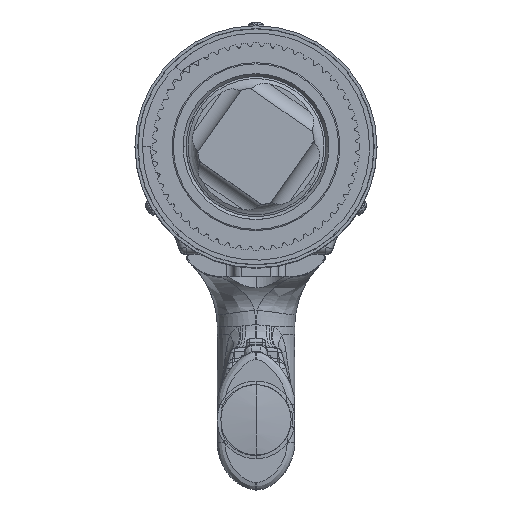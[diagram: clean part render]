
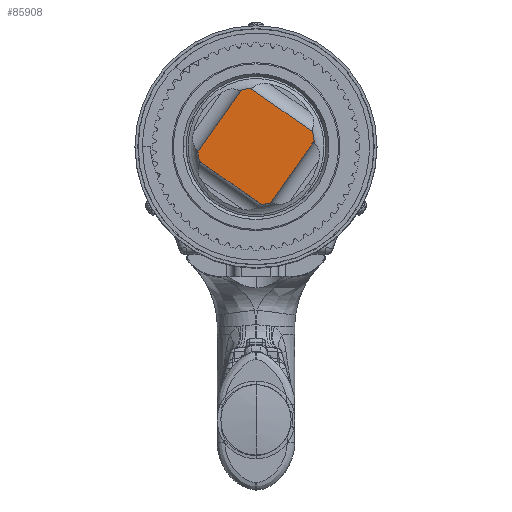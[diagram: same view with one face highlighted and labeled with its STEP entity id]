
A CAD part, top view. The second image highlights one B-rep face of the part: STEP entity #85908.
In plain terms, the highlighted planar face has unit normal (0, 0, 1).
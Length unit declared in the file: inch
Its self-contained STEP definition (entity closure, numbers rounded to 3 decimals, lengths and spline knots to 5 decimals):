
#2419 = AXIS2_PLACEMENT_3D ( 'NONE', #75793, #6244, #87295 ) ;
#5751 = PLANE ( 'NONE',  #2419 ) ;
#6244 = DIRECTION ( 'NONE',  ( 0., 0., -1. ) ) ;
#6402 = VERTEX_POINT ( 'NONE', #131752 ) ;
#8775 = DIRECTION ( 'NONE',  ( 0.82, -0.573, 0. ) ) ;
#9892 = LINE ( 'NONE', #78268, #71553 ) ;
#10936 = VERTEX_POINT ( 'NONE', #112325 ) ;
#13846 = ORIENTED_EDGE ( 'NONE', *, *, #33655, .T. ) ;
#16959 = VERTEX_POINT ( 'NONE', #147946 ) ;
#17022 = VERTEX_POINT ( 'NONE', #125379 ) ;
#19151 = AXIS2_PLACEMENT_3D ( 'NONE', #47066, #127144, #58733 ) ;
#29629 = EDGE_CURVE ( 'NONE', #10936, #6402, #84567, .T. ) ;
#33299 = LINE ( 'NONE', #134882, #121253 ) ;
#33655 = EDGE_CURVE ( 'NONE', #17022, #55460, #113120, .T. ) ;
#37376 = EDGE_CURVE ( 'NONE', #130683, #6402, #92343, .T. ) ;
#38495 = CARTESIAN_POINT ( 'NONE',  ( -0.24957, 0.95209, 4.1857 ) ) ;
#40762 = CARTESIAN_POINT ( 'NONE',  ( -1.35949, -0.63585, 4.1857 ) ) ;
#42291 = EDGE_CURVE ( 'NONE', #16959, #45571, #9892, .T. ) ;
#42733 = CARTESIAN_POINT ( 'NONE',  ( 0.95209, 0.24957, 4.1857 ) ) ;
#44501 = AXIS2_PLACEMENT_3D ( 'NONE', #122498, #53987, #134019 ) ;
#45451 = CARTESIAN_POINT ( 'NONE',  ( -0.95209, -0.24957, 4.1857 ) ) ;
#45571 = VERTEX_POINT ( 'NONE', #42733 ) ;
#47066 = CARTESIAN_POINT ( 'NONE',  ( 0., 0., 4.1857 ) ) ;
#52838 = CARTESIAN_POINT ( 'NONE',  ( 0., 0., 4.1857 ) ) ;
#53987 = DIRECTION ( 'NONE',  ( 0., 0., 1. ) ) ;
#55460 = VERTEX_POINT ( 'NONE', #45451 ) ;
#55876 = EDGE_CURVE ( 'NONE', #17022, #63035, #134478, .T. ) ;
#56352 = ORIENTED_EDGE ( 'NONE', *, *, #102128, .F. ) ;
#58733 = DIRECTION ( 'NONE',  ( -0.82, 0.573, 0. ) ) ;
#63035 = VERTEX_POINT ( 'NONE', #38495 ) ;
#64474 = DIRECTION ( 'NONE',  ( -0.82, 0.573, 0. ) ) ;
#67148 = DIRECTION ( 'NONE',  ( 0., 0., 1. ) ) ;
#71553 = VECTOR ( 'NONE', #8775, 39.37008 ) ;
#74184 = CIRCLE ( 'NONE', #19151, 0.98425 ) ;
#75793 = CARTESIAN_POINT ( 'NONE',  ( -0.56387, -0.80672, 4.1857 ) ) ;
#77475 = VECTOR ( 'NONE', #109547, 39.37008 ) ;
#78268 = CARTESIAN_POINT ( 'NONE',  ( -0.63585, 1.35949, 4.1857 ) ) ;
#81297 = ORIENTED_EDGE ( 'NONE', *, *, #37376, .T. ) ;
#84049 = CIRCLE ( 'NONE', #129088, 0.98425 ) ;
#84567 = LINE ( 'NONE', #87250, #145188 ) ;
#85908 = ADVANCED_FACE ( 'NONE', ( #89974 ), #5751, .F. ) ;
#87250 = CARTESIAN_POINT ( 'NONE',  ( 1.35949, 0.63585, 4.1857 ) ) ;
#87295 = DIRECTION ( 'NONE',  ( 0.82, -0.573, 0. ) ) ;
#89974 = FACE_OUTER_BOUND ( 'NONE', #130737, .T. ) ;
#92343 = CIRCLE ( 'NONE', #44501, 0.98425 ) ;
#101427 = DIRECTION ( 'NONE',  ( -0.82, 0.573, 0. ) ) ;
#101915 = EDGE_CURVE ( 'NONE', #16959, #63035, #84049, .T. ) ;
#102128 = EDGE_CURVE ( 'NONE', #130683, #55460, #33299, .T. ) ;
#104180 = ORIENTED_EDGE ( 'NONE', *, *, #109552, .T. ) ;
#109547 = DIRECTION ( 'NONE',  ( 0.573, 0.82, 0. ) ) ;
#109552 = EDGE_CURVE ( 'NONE', #10936, #45571, #74184, .T. ) ;
#110079 = DIRECTION ( 'NONE',  ( -0.573, -0.82, 0. ) ) ;
#111506 = CARTESIAN_POINT ( 'NONE',  ( 0.09274, -0.97987, 4.1857 ) ) ;
#112325 = CARTESIAN_POINT ( 'NONE',  ( 0.97987, 0.09274, 4.1857 ) ) ;
#113120 = CIRCLE ( 'NONE', #135408, 0.98425 ) ;
#118728 = ORIENTED_EDGE ( 'NONE', *, *, #101915, .T. ) ;
#120228 = ORIENTED_EDGE ( 'NONE', *, *, #29629, .F. ) ;
#121253 = VECTOR ( 'NONE', #101427, 39.37008 ) ;
#122498 = CARTESIAN_POINT ( 'NONE',  ( 0., 0., 4.1857 ) ) ;
#125379 = CARTESIAN_POINT ( 'NONE',  ( -0.97987, -0.09274, 4.1857 ) ) ;
#127144 = DIRECTION ( 'NONE',  ( 0., 0., 1. ) ) ;
#129088 = AXIS2_PLACEMENT_3D ( 'NONE', #52838, #132889, #64474 ) ;
#130683 = VERTEX_POINT ( 'NONE', #111506 ) ;
#130737 = EDGE_LOOP ( 'NONE', ( #81297, #120228, #104180, #140019, #118728, #144291, #13846, #56352 ) ) ;
#131752 = CARTESIAN_POINT ( 'NONE',  ( 0.24957, -0.95209, 4.1857 ) ) ;
#132889 = DIRECTION ( 'NONE',  ( 0., 0., 1. ) ) ;
#134019 = DIRECTION ( 'NONE',  ( -0.82, 0.573, 0. ) ) ;
#134478 = LINE ( 'NONE', #40762, #77475 ) ;
#134882 = CARTESIAN_POINT ( 'NONE',  ( 0.63585, -1.35949, 4.1857 ) ) ;
#135408 = AXIS2_PLACEMENT_3D ( 'NONE', #135523, #67148, #147017 ) ;
#135523 = CARTESIAN_POINT ( 'NONE',  ( 0., 0., 4.1857 ) ) ;
#140019 = ORIENTED_EDGE ( 'NONE', *, *, #42291, .F. ) ;
#144291 = ORIENTED_EDGE ( 'NONE', *, *, #55876, .F. ) ;
#145188 = VECTOR ( 'NONE', #110079, 39.37008 ) ;
#147017 = DIRECTION ( 'NONE',  ( -0.82, 0.573, 0. ) ) ;
#147946 = CARTESIAN_POINT ( 'NONE',  ( -0.09274, 0.97987, 4.1857 ) ) ;
